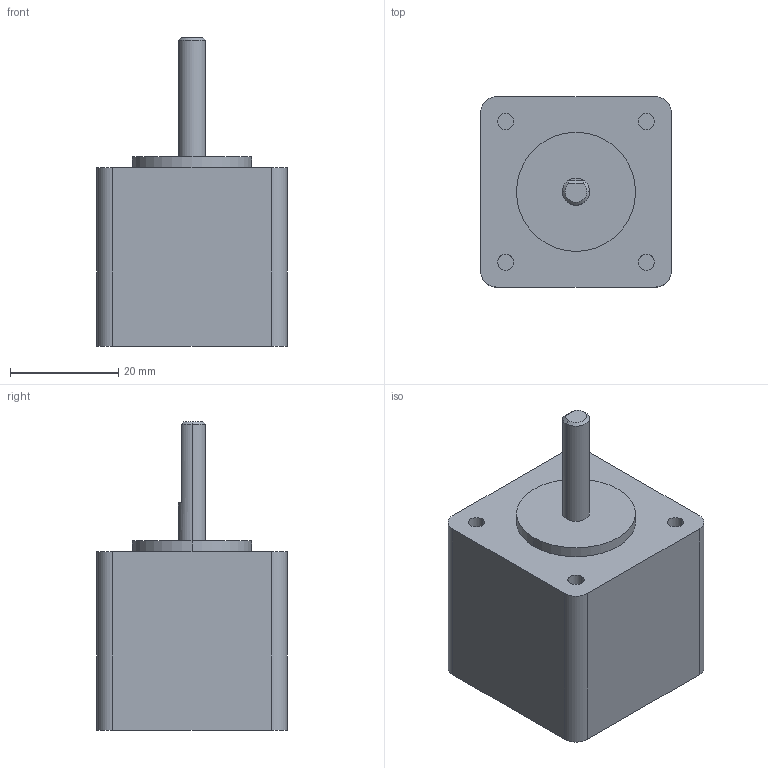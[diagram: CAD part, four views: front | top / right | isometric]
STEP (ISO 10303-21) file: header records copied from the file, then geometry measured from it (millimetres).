
FILE_DESCRIPTION (( 'STEP AP214' ), '1' );
FILE_NAME ('35CM015.STEP', '2018-06-05T01:20:23', ( 'Microsoft' ), ( 'China' ), 'SwSTEP 2.0', 'SolidWorks 2011', '' );
FILE_SCHEMA (( 'AUTOMOTIVE_DESIGN' ));
Length unit declared in the file: millimetre
Products named in the file (1): 35CM015
Bounding box: 35.2 x 35.2 x 57 mm (x, y, z)
Volume: 41681.2 mm3; surface area: 7584.4 mm2
Topology: 1 solids, 1 shells, 34 faces, 74 edges, 48 vertices
Faces by surface type: cylinder 16, plane 15, cone 3
Entity records: 979 total; most frequent: DIRECTION 179, CARTESIAN_POINT 163, ORIENTED_EDGE 148, EDGE_CURVE 74, AXIS2_PLACEMENT_3D 72, VERTEX_POINT 48, EDGE_LOOP 40, CIRCLE 37
